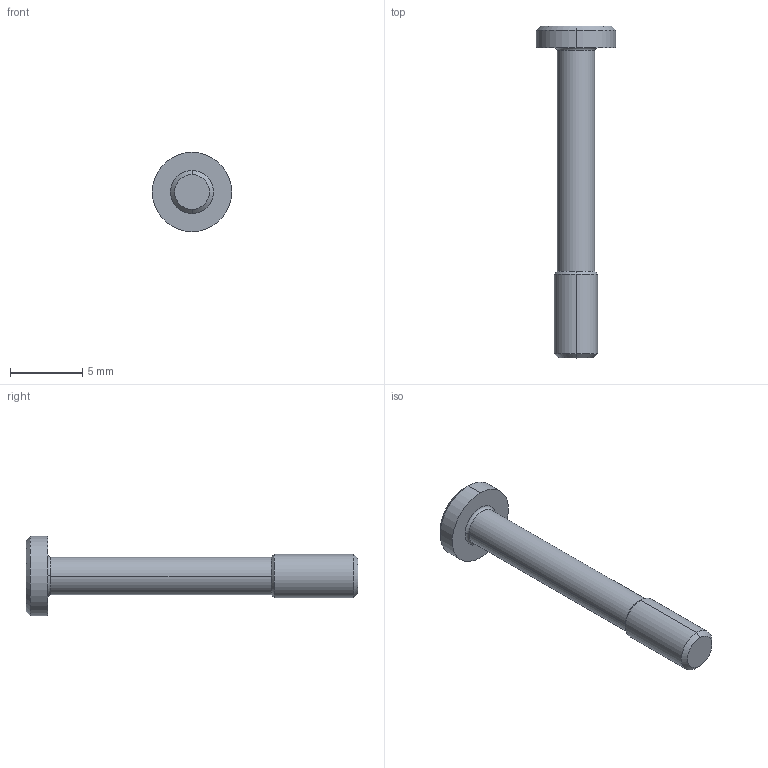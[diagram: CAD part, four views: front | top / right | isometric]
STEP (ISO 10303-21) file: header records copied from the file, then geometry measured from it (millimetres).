
FILE_DESCRIPTION((''),'2;1');
FILE_NAME('_0001','2024-02-22T19:45:31',('qinghui.yi'),(''),'CREO PARAMETRIC BY PTC INC, 2019164','CREO PARAMETRIC BY PTC INC, 2019164','');
FILE_SCHEMA(('CONFIG_CONTROL_DESIGN','SHAPE_APPEARANCE_LAYERS_GROUPS'));
Length unit declared in the file: millimetre
Products named in the file (1): _0001
Bounding box: 5.5 x 23 x 5.5 mm (x, y, z)
Volume: 154.9 mm3; surface area: 261.2 mm2
Topology: 1 solids, 1 shells, 42 faces, 97 edges, 62 vertices
Faces by surface type: plane 16, cylinder 12, cone 12, torus 2
Entity records: 1846 total; most frequent: COLOUR_RGB 312, DIRECTION 223, CARTESIAN_POINT 196, ORIENTED_EDGE 188, PRESENTATION_STYLE_ASSIGNMENT 99, STYLED_ITEM 99, CURVE_STYLE 98, EDGE_CURVE 94
